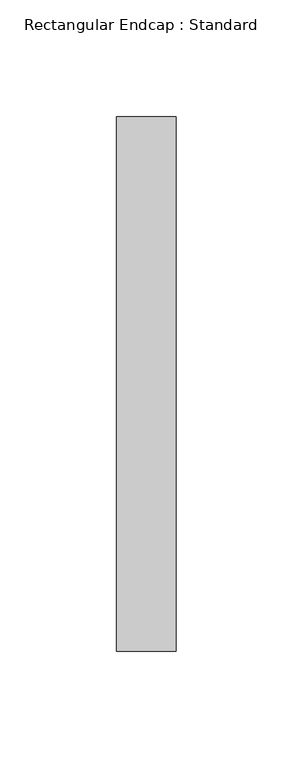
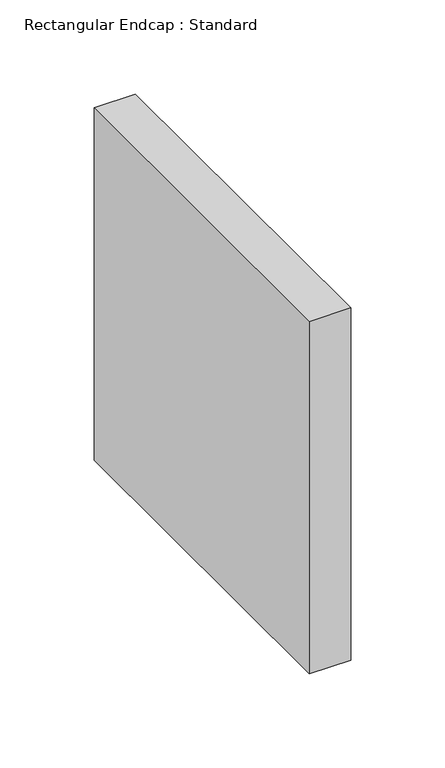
"""IFC4 building model written with IfcOpenShell, lengths in millimetres: duct fitting geometry, Rectangular Endcap : Standard."""

from ifc_helpers import new_model, si_unit, frame, origin, place, context, project, spatial, polyline, outline, extrude, source, transform, mapped, element, save


def rectangular_endcap_standard_343960f6(model_context):
    return source(origin(), model_context, "Body", "SweptSolid", [
        extrude(outline(polyline([(0.0, -114.3), (0.0, 114.3), (25.4, 114.3), (25.4, -114.3), (0.0, -114.3)])), frame((0.0, 0.0, -114.3), z_axis=(0.0, 0.0, 1.0), x_axis=(1.0, 0.0, 0.0)), (0.0, 0.0, 1.0), 228.6),
    ])


if __name__ == "__main__":
    model = new_model("IFC4")
    model_context = context("Model", 3, world=origin())
    ifc_project = project(units=[si_unit("LENGTHUNIT", "METRE", prefix="MILLI")], contexts=[model_context])
    site = spatial("IfcSite", under=ifc_project)
    building = spatial("IfcBuilding", under=site)
    placement = place(None, origin())
    rectangular_endcap_standard_shape = rectangular_endcap_standard_343960f6(model_context)
    element("IfcDuctFitting", 1, ObjectType="Rectangular Endcap : Standard", at=placement, inside=building, context=model_context, shape_type="MappedRepresentation", body=[
        mapped(rectangular_endcap_standard_shape, transform((0.0, 0.0, 0.0), x_axis=(1.0, 0.0, 0.0), y_axis=(0.0, 1.0, 0.0), z_axis=(0.0, 0.0, 1.0))),
    ])
    save(model, "model.ifc")
